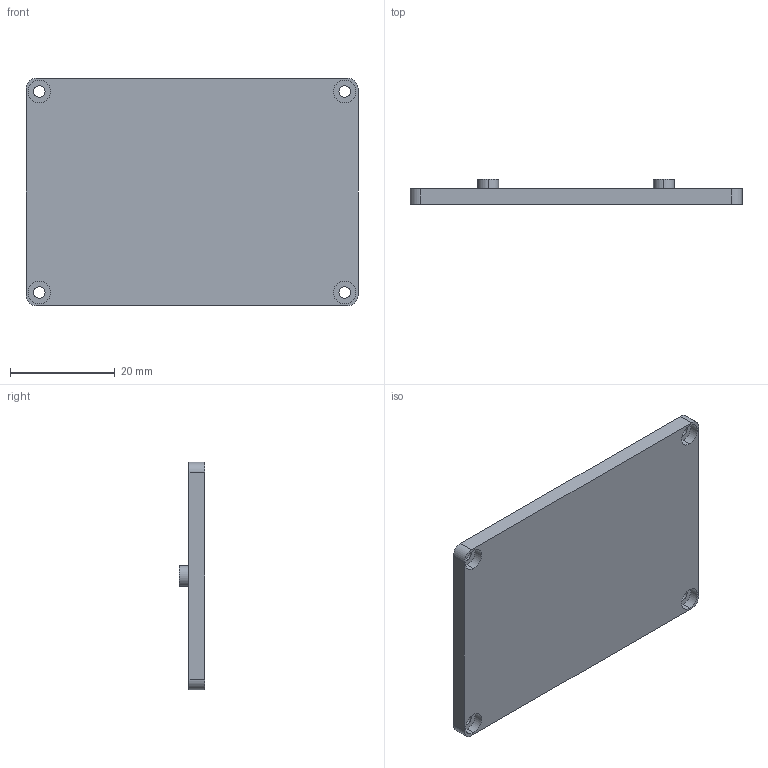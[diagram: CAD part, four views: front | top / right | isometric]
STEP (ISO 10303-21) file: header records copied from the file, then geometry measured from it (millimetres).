
FILE_DESCRIPTION (( 'STEP AP214' ), '1' );
FILE_NAME ('Cos PP94 E.STEP', '2017-10-16T07:07:57', ( 'aaa' ), ( '' ), 'SwSTEP 2.0', 'SolidWorks 2013', '' );
FILE_SCHEMA (( 'AUTOMOTIVE_DESIGN' ));
Length unit declared in the file: millimetre
Products named in the file (1): Cos PP94 E
Bounding box: 63.5 x 4.85 x 43.5 mm (x, y, z)
Volume: 4470 mm3; surface area: 6679.7 mm2
Topology: 1 solids, 1 shells, 67 faces, 168 edges, 112 vertices
Faces by surface type: cylinder 40, plane 27
Entity records: 2092 total; most frequent: DIRECTION 384, CARTESIAN_POINT 348, ORIENTED_EDGE 336, EDGE_CURVE 168, AXIS2_PLACEMENT_3D 148, VERTEX_POINT 112, LINE 88, VECTOR 88
